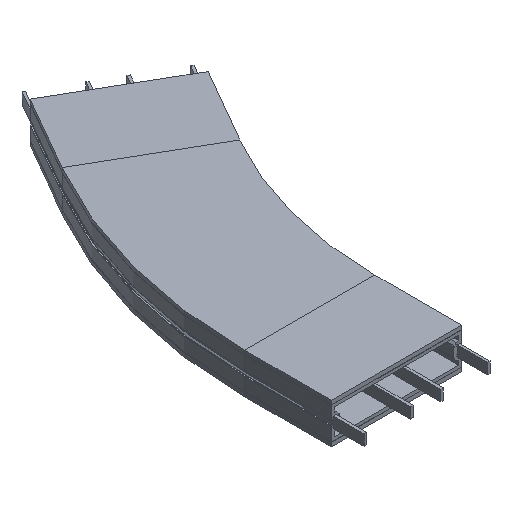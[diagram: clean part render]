
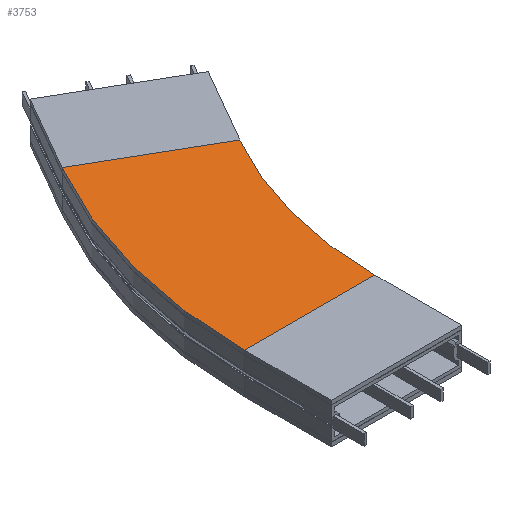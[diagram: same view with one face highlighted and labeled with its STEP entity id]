
A CAD part, isometric view. The second image highlights one B-rep face of the part: STEP entity #3753.
In plain terms, the highlighted planar face has unit normal (0, 0, 1).
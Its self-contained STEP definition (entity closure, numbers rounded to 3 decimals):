
#349 = CARTESIAN_POINT ( 'NONE',  ( -995.929, 575., 46.5 ) ) ;
#570 = EDGE_CURVE ( 'NONE', #5525, #6542, #6513, .T. ) ;
#578 = VERTEX_POINT ( 'NONE', #7201 ) ;
#989 = ORIENTED_EDGE ( 'NONE', *, *, #570, .T. ) ;
#1422 = CARTESIAN_POINT ( 'NONE',  ( -736.122, 425., 46.5 ) ) ;
#1670 = CARTESIAN_POINT ( 'NONE',  ( 0., 0., 46.5 ) ) ;
#1771 = DIRECTION ( 'NONE',  ( -1., 0., 0. ) ) ;
#1842 = VECTOR ( 'NONE', #7466, 1000. ) ;
#2125 = ORIENTED_EDGE ( 'NONE', *, *, #9700, .F. ) ;
#2431 = CARTESIAN_POINT ( 'NONE',  ( -1150., 0., 46.5 ) ) ;
#2870 = CARTESIAN_POINT ( 'NONE',  ( -995.929, 575., 46.5 ) ) ;
#3011 = DIRECTION ( 'NONE',  ( 1., 0., 0. ) ) ;
#3248 = ORIENTED_EDGE ( 'NONE', *, *, #8380, .T. ) ;
#3641 = AXIS2_PLACEMENT_3D ( 'NONE', #349, #6930, #3011 ) ;
#3753 = ADVANCED_FACE ( 'NONE', ( #6885 ), #9999, .T. ) ;
#4068 = EDGE_LOOP ( 'NONE', ( #5710, #2125, #3248, #989 ) ) ;
#4184 = DIRECTION ( 'NONE',  ( 0., 0., 1. ) ) ;
#4744 = LINE ( 'NONE', #2431, #7274 ) ;
#5021 = CARTESIAN_POINT ( 'NONE',  ( -995.929, 575., 46.5 ) ) ;
#5525 = VERTEX_POINT ( 'NONE', #2870 ) ;
#5710 = ORIENTED_EDGE ( 'NONE', *, *, #9692, .F. ) ;
#5948 = LINE ( 'NONE', #5021, #1842 ) ;
#6513 = CIRCLE ( 'NONE', #7498, 1150. ) ;
#6542 = VERTEX_POINT ( 'NONE', #8771 ) ;
#6885 = FACE_OUTER_BOUND ( 'NONE', #4068, .T. ) ;
#6930 = DIRECTION ( 'NONE',  ( 0., 0., 1. ) ) ;
#7108 = CIRCLE ( 'NONE', #8433, 850. ) ;
#7201 = CARTESIAN_POINT ( 'NONE',  ( -850., 0., 46.5 ) ) ;
#7274 = VECTOR ( 'NONE', #1771, 1000. ) ;
#7466 = DIRECTION ( 'NONE',  ( -0.866, 0.5, 0. ) ) ;
#7498 = AXIS2_PLACEMENT_3D ( 'NONE', #8035, #8754, #8860 ) ;
#8035 = CARTESIAN_POINT ( 'NONE',  ( 0., 0., 46.5 ) ) ;
#8181 = DIRECTION ( 'NONE',  ( -0.866, 0.5, 0. ) ) ;
#8380 = EDGE_CURVE ( 'NONE', #9631, #5525, #5948, .T. ) ;
#8433 = AXIS2_PLACEMENT_3D ( 'NONE', #1670, #4184, #8181 ) ;
#8754 = DIRECTION ( 'NONE',  ( 0., 0., 1. ) ) ;
#8771 = CARTESIAN_POINT ( 'NONE',  ( -1150., 0., 46.5 ) ) ;
#8860 = DIRECTION ( 'NONE',  ( -0.866, 0.5, 0. ) ) ;
#9631 = VERTEX_POINT ( 'NONE', #1422 ) ;
#9692 = EDGE_CURVE ( 'NONE', #578, #6542, #4744, .T. ) ;
#9700 = EDGE_CURVE ( 'NONE', #9631, #578, #7108, .T. ) ;
#9999 = PLANE ( 'NONE',  #3641 ) ;
